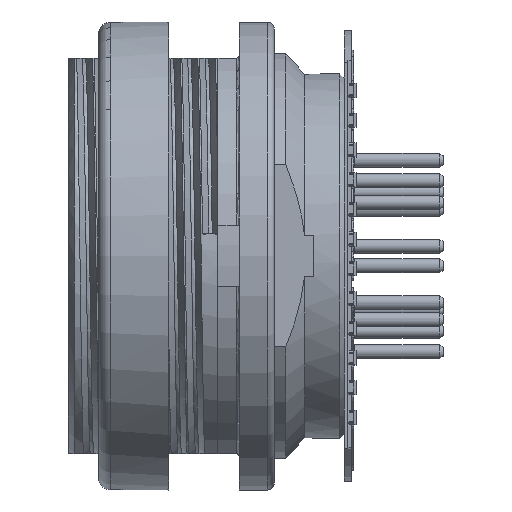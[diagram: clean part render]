
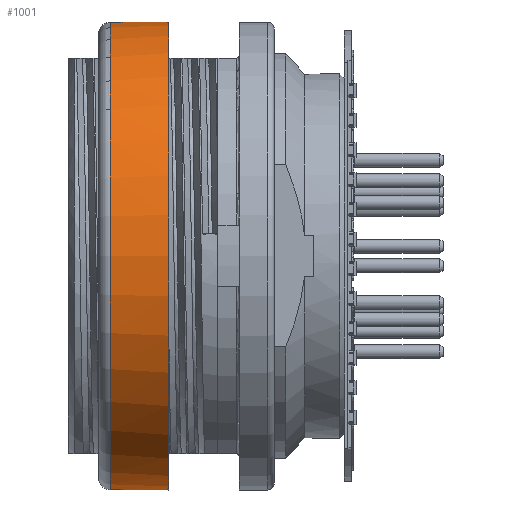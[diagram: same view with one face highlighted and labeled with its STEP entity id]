
A CAD part, top view. The second image highlights one B-rep face of the part: STEP entity #1001.
In plain terms, the highlighted cylindrical face has radius 10 mm (diameter 20 mm), a full revolution.
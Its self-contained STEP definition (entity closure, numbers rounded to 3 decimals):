
#230=FACE_BOUND('',#3002,.T.);
#231=FACE_BOUND('',#3003,.T.);
#1001=ADVANCED_FACE('',(#230,#231),#1933,.T.);
#1933=CYLINDRICAL_SURFACE('',#16745,10.);
#3002=EDGE_LOOP('',(#7244,#7245,#7246,#7247,#7248,#7249,#7250,#7251));
#3003=EDGE_LOOP('',(#7252));
#4079=LINE('',#22749,#5450);
#4080=LINE('',#22754,#5451);
#4081=LINE('',#22758,#5452);
#4082=LINE('',#22762,#5453);
#5450=VECTOR('',#18291,1.);
#5451=VECTOR('',#18294,1.);
#5452=VECTOR('',#18297,1.);
#5453=VECTOR('',#18300,1.);
#7244=ORIENTED_EDGE('',*,*,#13697,.F.);
#7245=ORIENTED_EDGE('',*,*,#13698,.T.);
#7246=ORIENTED_EDGE('',*,*,#13699,.F.);
#7247=ORIENTED_EDGE('',*,*,#13700,.F.);
#7248=ORIENTED_EDGE('',*,*,#13701,.F.);
#7249=ORIENTED_EDGE('',*,*,#13702,.T.);
#7250=ORIENTED_EDGE('',*,*,#13703,.F.);
#7251=ORIENTED_EDGE('',*,*,#13704,.F.);
#7252=ORIENTED_EDGE('',*,*,#13696,.T.);
#12075=VERTEX_POINT('',#22747);
#12076=VERTEX_POINT('',#22750);
#12077=VERTEX_POINT('',#22751);
#12078=VERTEX_POINT('',#22753);
#12079=VERTEX_POINT('',#22755);
#12080=VERTEX_POINT('',#22757);
#12081=VERTEX_POINT('',#22759);
#12082=VERTEX_POINT('',#22761);
#12083=VERTEX_POINT('',#22763);
#13696=EDGE_CURVE('',#12075,#12075,#16101,.T.);
#13697=EDGE_CURVE('',#12076,#12077,#4079,.T.);
#13698=EDGE_CURVE('',#12076,#12078,#16102,.T.);
#13699=EDGE_CURVE('',#12079,#12078,#4080,.T.);
#13700=EDGE_CURVE('',#12080,#12079,#16103,.T.);
#13701=EDGE_CURVE('',#12081,#12080,#4081,.T.);
#13702=EDGE_CURVE('',#12081,#12082,#16104,.T.);
#13703=EDGE_CURVE('',#12083,#12082,#4082,.T.);
#13704=EDGE_CURVE('',#12077,#12083,#16105,.T.);
#16101=CIRCLE('',#16739,10.);
#16102=CIRCLE('',#16741,10.);
#16103=CIRCLE('',#16742,10.);
#16104=CIRCLE('',#16743,10.);
#16105=CIRCLE('',#16744,10.);
#16739=AXIS2_PLACEMENT_3D('',#22746,#18287,#18288);
#16741=AXIS2_PLACEMENT_3D('',#22752,#18292,#18293);
#16742=AXIS2_PLACEMENT_3D('',#22756,#18295,#18296);
#16743=AXIS2_PLACEMENT_3D('',#22760,#18298,#18299);
#16744=AXIS2_PLACEMENT_3D('',#22764,#18301,#18302);
#16745=AXIS2_PLACEMENT_3D('',#22765,#18303,#18304);
#18287=DIRECTION('',(-1.,0.,0.));
#18288=DIRECTION('',(0.,0.,1.));
#18291=DIRECTION('',(1.,0.,0.));
#18292=DIRECTION('',(1.,0.,0.));
#18293=DIRECTION('',(0.,0.,1.));
#18294=DIRECTION('',(-1.,0.,0.));
#18295=DIRECTION('',(-1.,0.,0.));
#18296=DIRECTION('',(0.,0.,-1.));
#18297=DIRECTION('',(1.,0.,0.));
#18298=DIRECTION('',(1.,0.,0.));
#18299=DIRECTION('',(0.,0.,1.));
#18300=DIRECTION('',(-1.,0.,0.));
#18301=DIRECTION('',(-1.,0.,0.));
#18302=DIRECTION('',(0.,0.,-1.));
#18303=DIRECTION('',(-1.,0.,0.));
#18304=DIRECTION('',(0.,0.,1.));
#22746=CARTESIAN_POINT('',(4.3,0.,0.));
#22747=CARTESIAN_POINT('',(4.3,0.,10.));
#22749=CARTESIAN_POINT('',(4.3,9.987,0.5));
#22750=CARTESIAN_POINT('',(1.8,9.987,0.5));
#22751=CARTESIAN_POINT('',(2.3,9.987,0.5));
#22752=CARTESIAN_POINT('',(1.8,0.,0.));
#22753=CARTESIAN_POINT('',(1.8,-9.987,0.5));
#22754=CARTESIAN_POINT('',(4.3,-9.987,0.5));
#22755=CARTESIAN_POINT('',(2.3,-9.987,0.5));
#22756=CARTESIAN_POINT('',(2.3,0.,0.));
#22757=CARTESIAN_POINT('',(2.3,-9.987,-0.5));
#22758=CARTESIAN_POINT('',(4.3,-9.987,-0.5));
#22759=CARTESIAN_POINT('',(1.8,-9.987,-0.5));
#22760=CARTESIAN_POINT('',(1.8,0.,0.));
#22761=CARTESIAN_POINT('',(1.8,9.987,-0.5));
#22762=CARTESIAN_POINT('',(4.3,9.987,-0.5));
#22763=CARTESIAN_POINT('',(2.3,9.987,-0.5));
#22764=CARTESIAN_POINT('',(2.3,0.,0.));
#22765=CARTESIAN_POINT('',(4.3,0.,0.));
